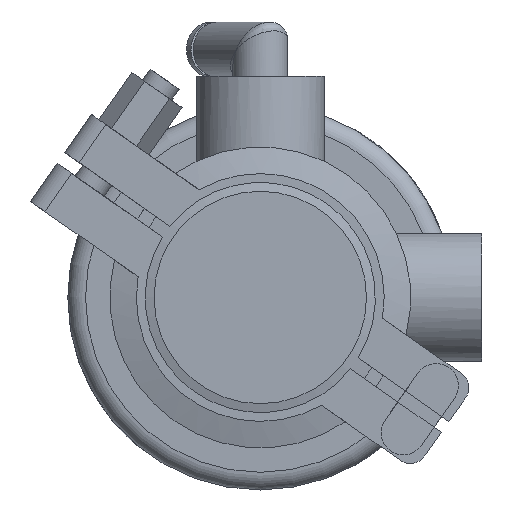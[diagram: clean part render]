
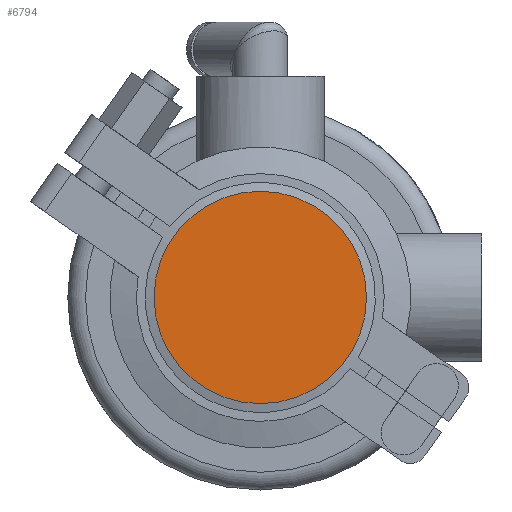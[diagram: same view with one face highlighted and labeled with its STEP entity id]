
A CAD part, front view. The second image highlights one B-rep face of the part: STEP entity #6794.
In plain terms, the highlighted planar face has unit normal (0, -1, 0).
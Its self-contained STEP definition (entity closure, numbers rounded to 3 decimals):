
#1424 = AXIS2_PLACEMENT_3D ( 'NONE', #15633, #14213, #9525 ) ;
#1943 = AXIS2_PLACEMENT_3D ( 'NONE', #10742, #16955, #15411 ) ;
#3110 = ORIENTED_EDGE ( 'NONE', *, *, #18482, .F. ) ;
#6794 = ADVANCED_FACE ( 'NONE', ( #7797 ), #9421, .T. ) ;
#7797 = FACE_OUTER_BOUND ( 'NONE', #14277, .T. ) ;
#9283 = CARTESIAN_POINT ( 'NONE',  ( 0., 0., 24. ) ) ;
#9421 = PLANE ( 'NONE',  #1424 ) ;
#9525 = DIRECTION ( 'NONE',  ( 0., 0., -1. ) ) ;
#10725 = VERTEX_POINT ( 'NONE', #9283 ) ;
#10742 = CARTESIAN_POINT ( 'NONE',  ( 0., 0., 0. ) ) ;
#14213 = DIRECTION ( 'NONE',  ( 0., -1., 0. ) ) ;
#14277 = EDGE_LOOP ( 'NONE', ( #3110 ) ) ;
#15411 = DIRECTION ( 'NONE',  ( 0., 0., 1. ) ) ;
#15633 = CARTESIAN_POINT ( 'NONE',  ( -24., 0., 0. ) ) ;
#16955 = DIRECTION ( 'NONE',  ( 0., 1., 0. ) ) ;
#18482 = EDGE_CURVE ( 'NONE', #10725, #10725, #19528, .T. ) ;
#19528 = CIRCLE ( 'NONE', #1943, 24. ) ;
